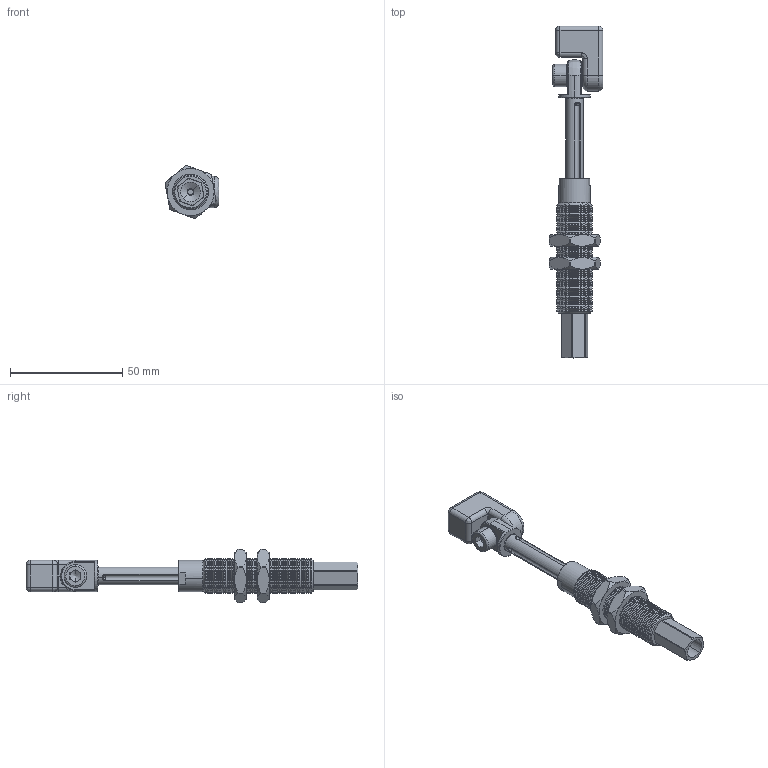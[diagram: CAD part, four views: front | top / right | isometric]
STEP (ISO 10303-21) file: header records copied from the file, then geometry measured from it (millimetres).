
FILE_DESCRIPTION (( 'STEP AP203' ), '1' );
FILE_NAME ('VFET1636-G18.STEP', '2025-01-03T09:29:22', ( 'Windows 蚚誧' ), ( 'Organization' ), 'SwSTEP 2.0', 'SolidWorks 2018', '' );
FILE_SCHEMA (( 'CONFIG_CONTROL_DESIGN' ));
Length unit declared in the file: millimetre
Products named in the file (11): VFET1636-G18.sldasm-Part-1; VFET1636-G18.sldasm-Part-5; VFET1636-G18.sldasm-Part-3; VFET1636-G18.sldasm-Part-2; VFET1636-G18.sldasm-Part-9; VFET1636-G18.sldasm-Part-10; VFET1636-G18; VFET1636-G18.sldasm-Part-4; VFET1636-G18.sldasm-Part-7; VFET1636-G18.sldasm-Part-6; VFET1636-G18.sldasm-Part-8
Assembly tree (10 placements, depth 2):
  VFET1636-G18
    VFET1636-G18.sldasm-Part-1
    VFET1636-G18.sldasm-Part-2
    VFET1636-G18.sldasm-Part-3
    VFET1636-G18.sldasm-Part-4
    VFET1636-G18.sldasm-Part-5
    VFET1636-G18.sldasm-Part-6
    VFET1636-G18.sldasm-Part-7
    VFET1636-G18.sldasm-Part-8
    VFET1636-G18.sldasm-Part-9
    VFET1636-G18.sldasm-Part-10
Bounding box: 24.02 x 148 x 23.68 mm (x, y, z)
Volume: 20867.2 mm3; surface area: 18092.1 mm2
Topology: 10 solids, 10 shells, 1080 faces, 2776 edges, 1706 vertices
Faces by surface type: plane 463, cone 350, cylinder 236, bspline 31
Entity records: 37578 total; most frequent: CARTESIAN_POINT 9682, DIRECTION 5950, ORIENTED_EDGE 5514, EDGE_CURVE 2757, AXIS2_PLACEMENT_3D 2262, VERTEX_POINT 1706, LINE 1426, VECTOR 1426
